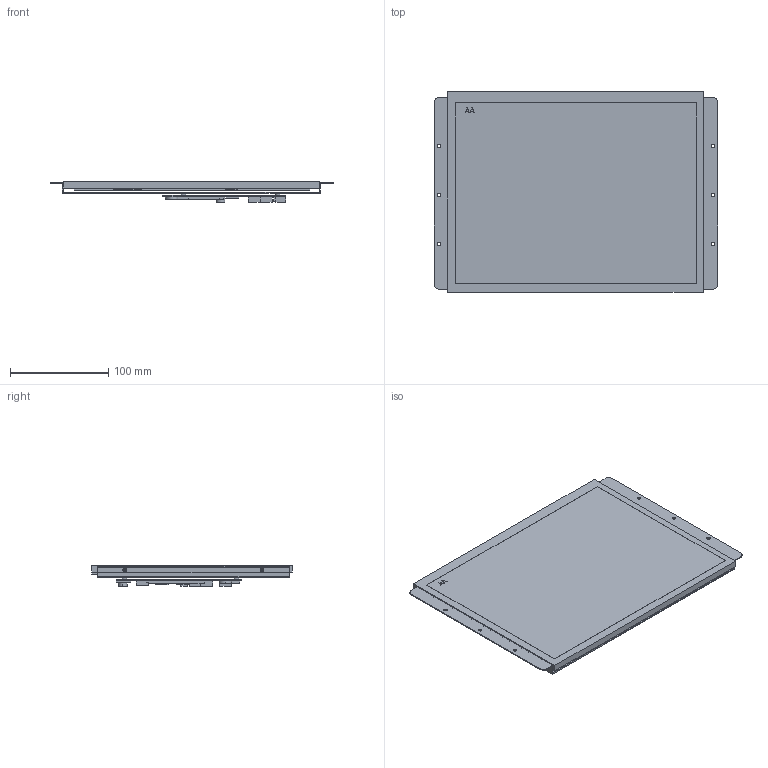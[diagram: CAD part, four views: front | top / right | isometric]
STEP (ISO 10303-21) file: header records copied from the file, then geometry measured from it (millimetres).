
FILE_DESCRIPTION((''),'2;1');
FILE_NAME('DMG10768S121-03W_ASM','2023-03-21T',('Administrator'),(''),'PRO/ENGINEER BY PARAMETRIC TECHNOLOGY CORPORATION, 2014320','PRO/ENGINEER BY PARAMETRIC TECHNOLOGY CORPORATION, 2014320','');
FILE_SCHEMA(('CONFIG_CONTROL_DESIGN','SHAPE_APPEARANCE_LAYERS_GROUPS'));
Length unit declared in the file: millimetre
Products named in the file (4): EV121X0M-N10; TK121006; S121-03PCB; DMG10768S121-03W_ASM
Assembly tree (3 placements, depth 2):
  DMG10768S121-03W_ASM
    EV121X0M-N10
    TK121006
    S121-03PCB
Bounding box: 289.2 x 204 x 21.4 mm (x, y, z)
Volume: 434279.1 mm3; surface area: 303899.5 mm2
Topology: 3 solids, 3 shells, 235 faces, 598 edges, 398 vertices
Faces by surface type: plane 165, cylinder 70
Entity records: 7967 total; most frequent: CARTESIAN_POINT 1252, DIRECTION 1218, ORIENTED_EDGE 1196, EDGE_CURVE 598, VECTOR 454, LINE 454, VERTEX_POINT 398, AXIS2_PLACEMENT_3D 382
